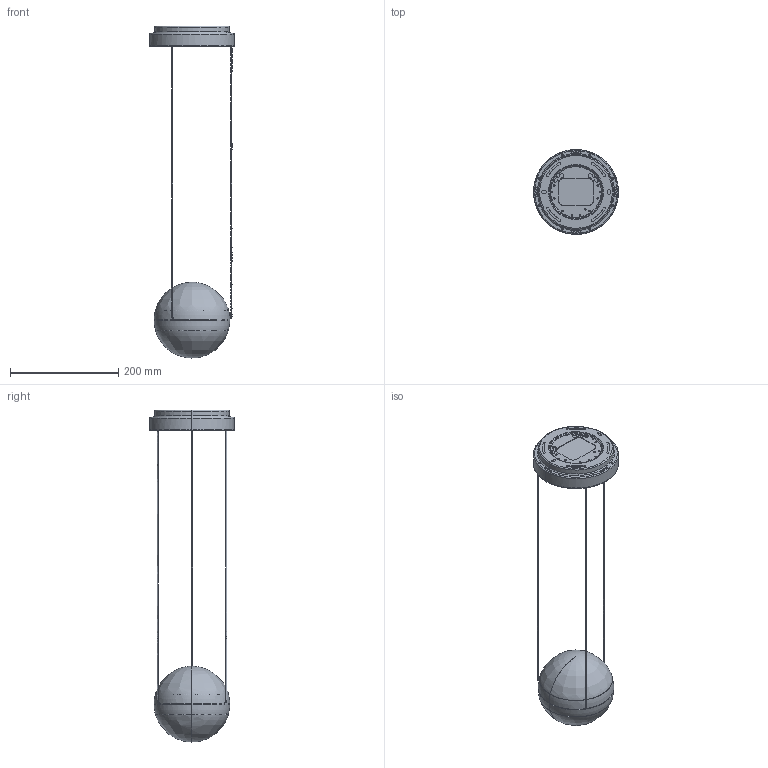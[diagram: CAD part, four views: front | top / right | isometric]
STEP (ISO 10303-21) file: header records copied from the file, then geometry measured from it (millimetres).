
FILE_DESCRIPTION(/* description */ (''),/* implementation_level */ '2;1');
FILE_NAME(/* name */ 'p159009_uno_msl_asm',/* time_stamp */ '2022-01-26T11:48:42+01:00',/* author */ (''),/* organization */ (''),/* preprocessor_version */ 'ST-DEVELOPER v15',/* originating_system */ '',/* authorisation */ '');
FILE_SCHEMA (('AUTOMOTIVE_DESIGN'));
Length unit declared in the file: millimetre
Products named in the file (1): Document
Bounding box: 157 x 156.87 x 614.19 mm (x, y, z)
Surface area: 128926.6 mm2 (no closed solid volume)
Topology: 0 solids, 1 shells, 337 faces, 851 edges, 542 vertices
Faces by surface type: bspline 292, plane 45
Entity records: 17682 total; most frequent: CARTESIAN_POINT 13188, ORIENTED_EDGE 1686, EDGE_CURVE 849, VERTEX_POINT 542, EDGE_LOOP 370, ADVANCED_FACE 337, FACE_OUTER_BOUND 337, B_SPLINE_CURVE_WITH_KNOTS 171
